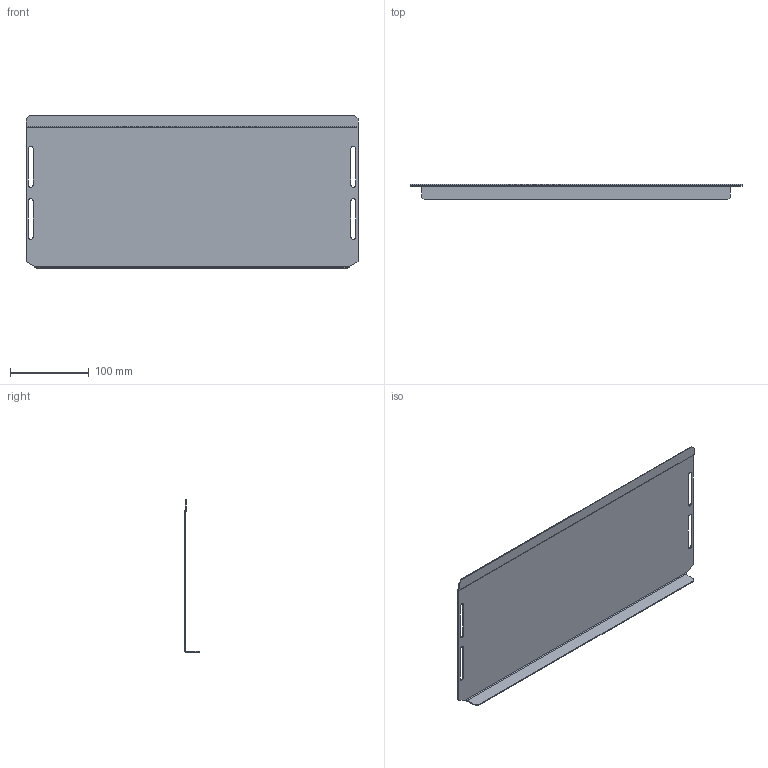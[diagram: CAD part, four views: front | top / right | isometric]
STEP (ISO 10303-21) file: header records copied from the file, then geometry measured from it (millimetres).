
FILE_DESCRIPTION (( 'STEP AP214' ), '1' );
FILE_NAME ('PKV 60 PH Ïàíåëü ïîäâèæíàÿ.STEP', '2021-05-24T10:03:22', ( '' ), ( '' ), 'SwSTEP 2.0', 'SolidWorks 2018', '' );
FILE_SCHEMA (( 'AUTOMOTIVE_DESIGN' ));
Length unit declared in the file: millimetre
Products named in the file (1): PKV 60 PH Ïàíåëü ïîäâèæíàÿ
Bounding box: 420.5 x 19 x 193.6 mm (x, y, z)
Volume: 104385.6 mm3; surface area: 175999.1 mm2
Topology: 1 solids, 1 shells, 52 faces, 130 edges, 80 vertices
Faces by surface type: plane 32, cylinder 18, bspline 2
Entity records: 1636 total; most frequent: CARTESIAN_POINT 345, ORIENTED_EDGE 260, DIRECTION 256, EDGE_CURVE 130, LINE 90, VECTOR 90, AXIS2_PLACEMENT_3D 83, VERTEX_POINT 80
